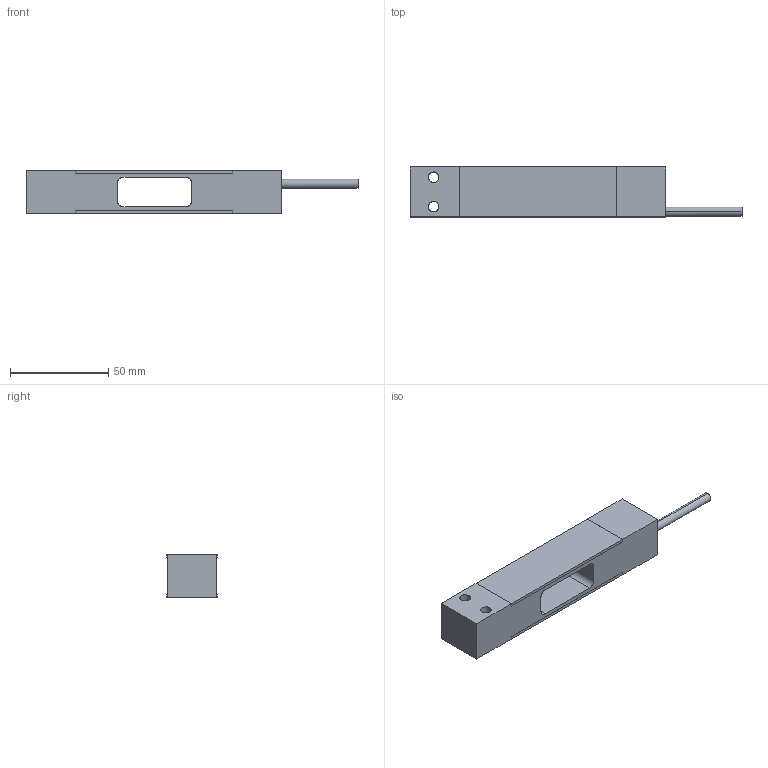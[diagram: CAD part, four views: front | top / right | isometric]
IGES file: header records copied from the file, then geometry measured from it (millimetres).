
Start section: SolidWorks IGES file using analytic representation for surfaces
Global section: file name: C:\Users\nasc01\Desktop\Assemblies for Conversion\Load_Sensor_HISPA22_5KG\Load_Sensor_HISPA22_5KG_3D\Load_Sensor_HISPA22_5KG.IGS; native system: SolidWorks 2013; preprocessor: SolidWorks 2013; author: nasc01; date: 141008.164335; units: millimetre
Bounding box: 168.72 x 25.42 x 22.02 mm (x, y, z)
Surface area: 16586.6 mm2 (no closed solid volume)
Topology: 0 solids, 0 shells, 44 faces, 540 edges, 540 vertices
Faces by surface type: bspline 30, revolution 14
